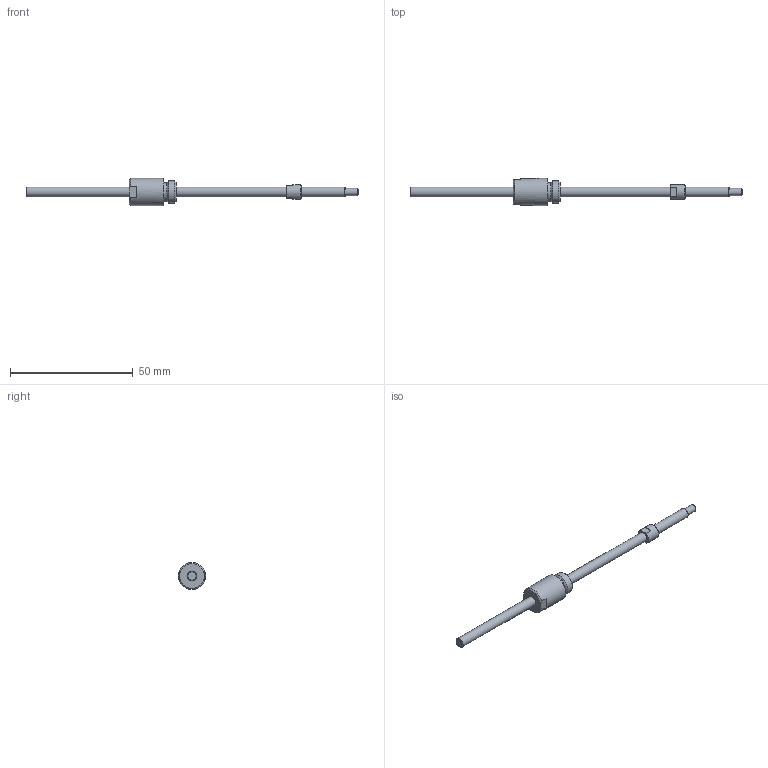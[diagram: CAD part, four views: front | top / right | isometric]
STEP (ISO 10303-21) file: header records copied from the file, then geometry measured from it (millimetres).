
FILE_DESCRIPTION(/* description */ ('STEP AP214'),/* implementation_level */ '2;1');
FILE_NAME(/* name */ 'NSG0401-103R135C5A0X(42)',/* time_stamp */ '2026-08-20T15:45:32+02:00',/* author */ ('License CC BY-ND 4.0'),/* organization */ ('CADENAS'),/* preprocessor_version */ 'ST-DEVELOPER v20',/* originating_system */ 'PARTsolutions',/* authorisation */ ' ');
FILE_SCHEMA (('AUTOMOTIVE_DESIGN {1 0 10303 214 3 1 1}'));
Length unit declared in the file: millimetre
Products named in the file (3): NSG0401-103R135C5A0X(42); NSG0401-103R135C3A_shaft; NSG0401_nut
Assembly tree (2 placements, depth 2):
  NSG0401-103R135C5A0X(42)
    NSG0401-103R135C3A_shaft
    NSG0401_nut
Bounding box: 135 x 11 x 11 mm (x, y, z)
Volume: 3121.4 mm3; surface area: 2788.9 mm2
Topology: 2 solids, 2 shells, 34 faces, 67 edges, 41 vertices
Faces by surface type: plane 16, cone 9, cylinder 8, torus 1
Full cylindrical faces by diameter (mm): 3 x1, 4 x3, 6 x1, 7.7 x1, 9 x1, 11 x1
Entity records: 859 total; most frequent: DIRECTION 150, CARTESIAN_POINT 137, ORIENTED_EDGE 98, AXIS2_PLACEMENT_3D 68, EDGE_LOOP 56, FACE_BOUND 56, EDGE_CURVE 49, VERTEX_POINT 39
